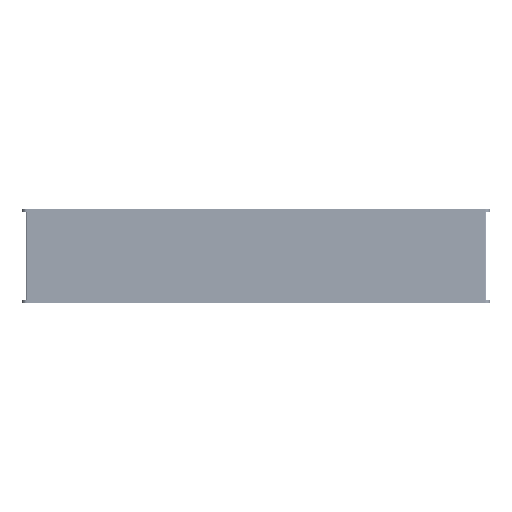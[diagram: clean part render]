
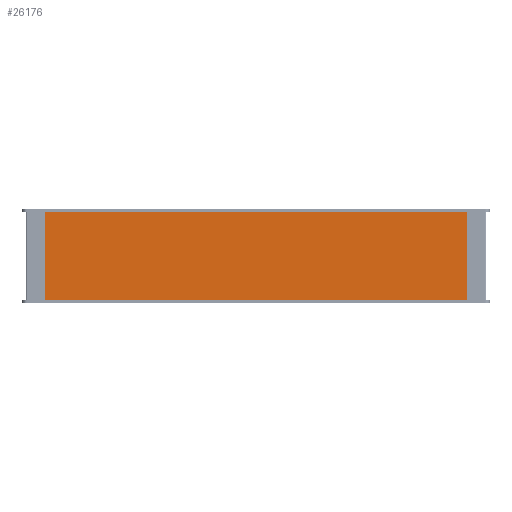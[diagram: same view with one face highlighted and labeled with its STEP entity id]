
A CAD part, left-side view. The second image highlights one B-rep face of the part: STEP entity #26176.
In plain terms, the highlighted planar face has unit normal (-1, 0, 0).
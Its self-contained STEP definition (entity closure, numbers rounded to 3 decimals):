
#1866 = LINE ( 'NONE', #201231, #218441 ) ;
#9152 = DIRECTION ( 'NONE',  ( 1., 0., 0. ) ) ;
#11591 = ORIENTED_EDGE ( 'NONE', *, *, #45689, .T. ) ;
#18767 = VERTEX_POINT ( 'NONE', #63133 ) ;
#25000 = EDGE_CURVE ( 'NONE', #18767, #165262, #1866, .T. ) ;
#26176 = ADVANCED_FACE ( 'NONE', ( #130749 ), #158842, .F. ) ;
#32399 = CARTESIAN_POINT ( 'NONE',  ( -1013.963, 515.518, 4.94 ) ) ;
#34660 = CARTESIAN_POINT ( 'NONE',  ( -1013.963, 515.518, 4.94 ) ) ;
#34674 = CARTESIAN_POINT ( 'NONE',  ( -1013.963, -450.482, 4.94 ) ) ;
#36865 = VECTOR ( 'NONE', #150305, 1000. ) ;
#37838 = DIRECTION ( 'NONE',  ( 0., 0., 1. ) ) ;
#45689 = EDGE_CURVE ( 'NONE', #54122, #80748, #187299, .T. ) ;
#54122 = VERTEX_POINT ( 'NONE', #34660 ) ;
#60100 = ORIENTED_EDGE ( 'NONE', *, *, #170456, .T. ) ;
#63133 = CARTESIAN_POINT ( 'NONE',  ( -1013.963, -450.482, 194.94 ) ) ;
#63956 = LINE ( 'NONE', #136716, #85122 ) ;
#80748 = VERTEX_POINT ( 'NONE', #34674 ) ;
#85122 = VECTOR ( 'NONE', #204633, 1000. ) ;
#91140 = DIRECTION ( 'NONE',  ( 0., 1., 0. ) ) ;
#91263 = LINE ( 'NONE', #137349, #175596 ) ;
#105902 = ORIENTED_EDGE ( 'NONE', *, *, #25000, .T. ) ;
#111464 = ORIENTED_EDGE ( 'NONE', *, *, #113544, .T. ) ;
#113544 = EDGE_CURVE ( 'NONE', #165262, #54122, #63956, .T. ) ;
#114203 = DIRECTION ( 'NONE',  ( 0., 1., 0. ) ) ;
#125161 = AXIS2_PLACEMENT_3D ( 'NONE', #194313, #9152, #91140 ) ;
#130749 = FACE_OUTER_BOUND ( 'NONE', #175827, .T. ) ;
#133624 = CARTESIAN_POINT ( 'NONE',  ( -1013.963, 515.518, 194.94 ) ) ;
#136716 = CARTESIAN_POINT ( 'NONE',  ( -1013.963, 515.518, 4.94 ) ) ;
#137349 = CARTESIAN_POINT ( 'NONE',  ( -1013.963, -450.482, 4.94 ) ) ;
#150305 = DIRECTION ( 'NONE',  ( 0., -1., 0. ) ) ;
#158842 = PLANE ( 'NONE',  #125161 ) ;
#165262 = VERTEX_POINT ( 'NONE', #133624 ) ;
#170456 = EDGE_CURVE ( 'NONE', #80748, #18767, #91263, .T. ) ;
#175596 = VECTOR ( 'NONE', #37838, 1000. ) ;
#175827 = EDGE_LOOP ( 'NONE', ( #60100, #105902, #111464, #11591 ) ) ;
#187299 = LINE ( 'NONE', #32399, #36865 ) ;
#194313 = CARTESIAN_POINT ( 'NONE',  ( -1013.963, 32.518, 99.94 ) ) ;
#201231 = CARTESIAN_POINT ( 'NONE',  ( -1013.963, 515.518, 194.94 ) ) ;
#204633 = DIRECTION ( 'NONE',  ( 0., 0., -1. ) ) ;
#218441 = VECTOR ( 'NONE', #114203, 1000. ) ;
